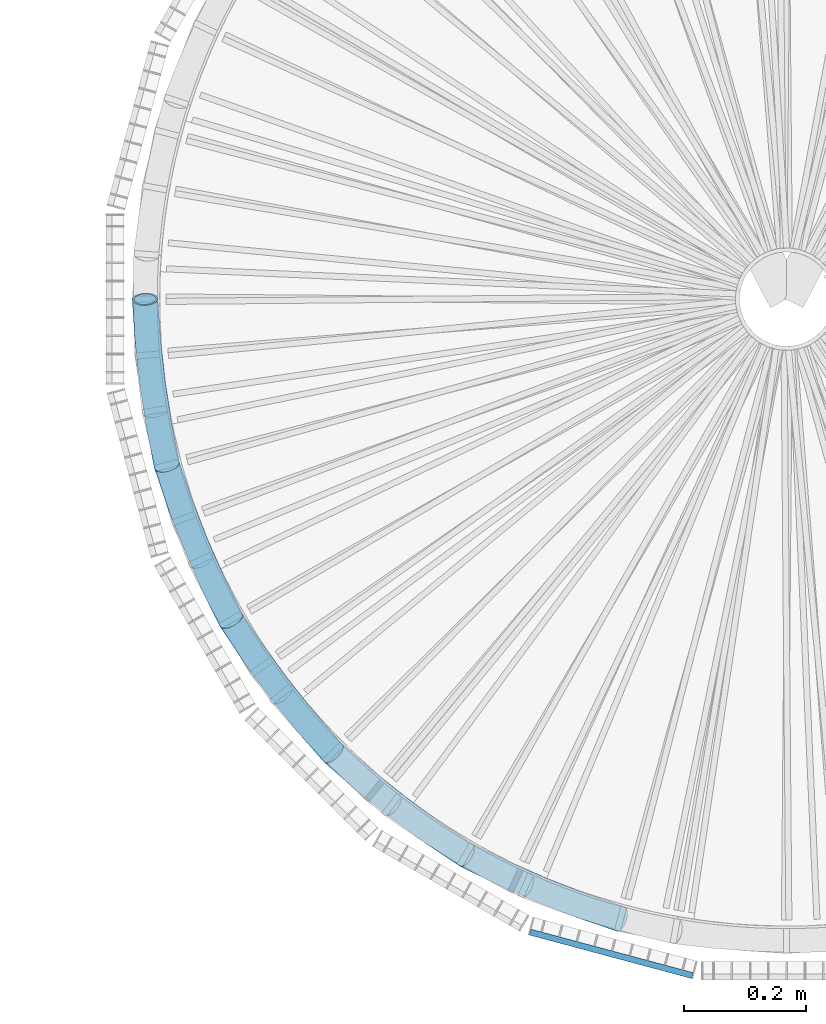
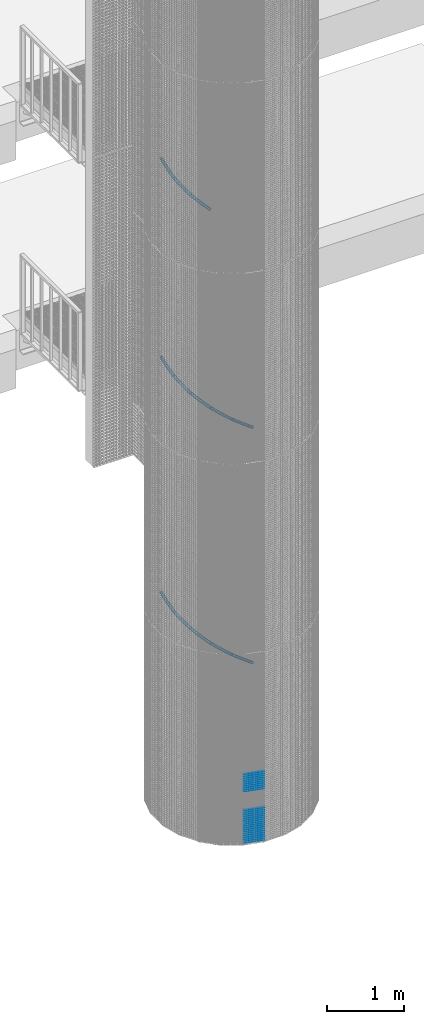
# One storey, part 373 of 1148: 28 beams, 13 members, 14 elements without a shape of their own.
"""IFC2X3 building model written with IfcOpenShell, lengths in millimetres."""

from ifc_helpers import new_model, entity, si_unit, frame, origin_with_axes, origin_2d_with_axis, place, context, subcontext, project, spatial, rectangle, extrude, material, type_object, element, aggregate, save


model = new_model("IFC2X3")

# Units and contexts
model_context = context("Model", 3, precision=1e-05, world=origin_with_axes())
body_context = subcontext(model_context, "Body", "Model", "MODEL_VIEW")
ifc_project = project(units=[si_unit("LENGTHUNIT", "METRE", prefix="MILLI"), si_unit("AREAUNIT", "SQUARE_METRE"), si_unit("VOLUMEUNIT", "CUBIC_METRE"), si_unit("MASSUNIT", "GRAM", prefix="KILO"), si_unit("TIMEUNIT", "SECOND"), si_unit("PLANEANGLEUNIT", "RADIAN"), si_unit("SOLIDANGLEUNIT", "STERADIAN"), si_unit("THERMODYNAMICTEMPERATUREUNIT", "DEGREE_CELSIUS"), si_unit("LUMINOUSINTENSITYUNIT", "LUMEN")], contexts=[model_context])

# Site, building, storey
site_placement = place(None, origin_with_axes())
site = spatial("IfcSite", under=ifc_project, at=site_placement, Name="Undefined", CompositionType="ELEMENT")
building_placement = place(site_placement, origin_with_axes())
building = spatial("IfcBuilding", under=site, at=building_placement, Name="Undefined", CompositionType="ELEMENT")
storey_placement = place(building_placement, origin_with_axes())
storey = spatial("IfcBuildingStorey", under=building, at=storey_placement, Name="Undefined", CompositionType="ELEMENT", Elevation=0.0)

# Assembly, beams
assembly_1_placement = place(storey_placement, origin_with_axes())
assembly_1 = element("IfcElementAssembly", 1, at=assembly_1_placement, inside=storey, Name="BORDURE", AssemblyPlace="NOTDEFINED", PredefinedType="NOTDEFINED")
ifc_material = material(Name="STEEL/S235JR")
beam_type = type_object("IfcBeamType", Name="PL2*10", PredefinedType="NOTDEFINED")
beam_1_placement = place(assembly_1_placement, frame((21445.1040732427, -1111.25508286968, 539.999999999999), z_axis=(-0.258819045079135, -0.965925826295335, 0.0), x_axis=(-0.965925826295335, 0.258819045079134, 0.0)))
beam_1 = element("IfcBeam", 2, at=beam_1_placement, type_object=beam_type, material=ifc_material, Name="ENTRETOISE", context=body_context, shape_type="SweptSolid", body=[
    extrude(rectangle(XDim=2.0, YDim=10.0, at=origin_2d_with_axis()), frame((275.999999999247, 9.09494701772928e-13, 1.53210777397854e-14), z_axis=(-1.0, 0.0, 0.0), x_axis=(0.0, -1.0, 0.0)), (0.0, 0.0, 1.0), 276.0),
])
beam_2_placement = place(assembly_1_placement, frame((21445.1040732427, -1111.25508286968, 839.999999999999), z_axis=(-0.258819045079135, -0.965925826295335, 0.0), x_axis=(-0.965925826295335, 0.258819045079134, 0.0)))
beam_2 = element("IfcBeam", 3, at=beam_2_placement, type_object=beam_type, material=ifc_material, Name="ENTRETOISE", context=body_context, shape_type="SweptSolid", body=[
    extrude(rectangle(XDim=2.0, YDim=10.0, at=origin_2d_with_axis()), frame((275.999999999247, 9.09494701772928e-13, 1.53210777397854e-14), z_axis=(-1.0, 0.0, 0.0), x_axis=(0.0, -1.0, 0.0)), (0.0, 0.0, 1.0), 276.0),
])
beam_3_placement = place(assembly_1_placement, frame((21445.1040732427, -1111.25508286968, 509.999999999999), z_axis=(-0.258819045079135, -0.965925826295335, 0.0), x_axis=(-0.965925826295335, 0.258819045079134, 0.0)))
beam_3 = element("IfcBeam", 4, at=beam_3_placement, type_object=beam_type, material=ifc_material, Name="ENTRETOISE", context=body_context, shape_type="SweptSolid", body=[
    extrude(rectangle(XDim=2.0, YDim=10.0, at=origin_2d_with_axis()), frame((275.999999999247, 9.09494701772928e-13, 1.53210777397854e-14), z_axis=(-1.0, 0.0, 0.0), x_axis=(0.0, -1.0, 0.0)), (0.0, 0.0, 1.0), 276.0),
])
beam_4_placement = place(assembly_1_placement, frame((21445.1040732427, -1111.25508286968, 479.999999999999), z_axis=(-0.258819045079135, -0.965925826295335, 0.0), x_axis=(-0.965925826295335, 0.258819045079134, 0.0)))
beam_4 = element("IfcBeam", 5, at=beam_4_placement, type_object=beam_type, material=ifc_material, Name="ENTRETOISE", context=body_context, shape_type="SweptSolid", body=[
    extrude(rectangle(XDim=2.0, YDim=10.0, at=origin_2d_with_axis()), frame((275.999999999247, 9.09494701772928e-13, 1.53210777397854e-14), z_axis=(-1.0, 0.0, 0.0), x_axis=(0.0, -1.0, 0.0)), (0.0, 0.0, 1.0), 276.0),
])
beam_5_placement = place(assembly_1_placement, frame((21445.1040732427, -1111.25508286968, 869.999999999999), z_axis=(-0.258819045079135, -0.965925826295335, 0.0), x_axis=(-0.965925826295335, 0.258819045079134, 0.0)))
beam_5 = element("IfcBeam", 6, at=beam_5_placement, type_object=beam_type, material=ifc_material, Name="ENTRETOISE", context=body_context, shape_type="SweptSolid", body=[
    extrude(rectangle(XDim=2.0, YDim=10.0, at=origin_2d_with_axis()), frame((275.999999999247, 9.09494701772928e-13, 1.53210777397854e-14), z_axis=(-1.0, 0.0, 0.0), x_axis=(0.0, -1.0, 0.0)), (0.0, 0.0, 1.0), 276.0),
])
beam_6_placement = place(assembly_1_placement, frame((21445.1040732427, -1111.25508286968, 449.999999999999), z_axis=(-0.258819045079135, -0.965925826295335, 0.0), x_axis=(-0.965925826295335, 0.258819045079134, 0.0)))
beam_6 = element("IfcBeam", 7, at=beam_6_placement, type_object=beam_type, material=ifc_material, Name="ENTRETOISE", context=body_context, shape_type="SweptSolid", body=[
    extrude(rectangle(XDim=2.0, YDim=10.0, at=origin_2d_with_axis()), frame((275.999999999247, 9.09494701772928e-13, 1.53210777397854e-14), z_axis=(-1.0, 0.0, 0.0), x_axis=(0.0, -1.0, 0.0)), (0.0, 0.0, 1.0), 276.0),
])
beam_7_placement = place(assembly_1_placement, frame((21445.1040732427, -1111.25508286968, 419.999999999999), z_axis=(-0.258819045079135, -0.965925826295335, 0.0), x_axis=(-0.965925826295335, 0.258819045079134, 0.0)))
beam_7 = element("IfcBeam", 8, at=beam_7_placement, type_object=beam_type, material=ifc_material, Name="ENTRETOISE", context=body_context, shape_type="SweptSolid", body=[
    extrude(rectangle(XDim=2.0, YDim=10.0, at=origin_2d_with_axis()), frame((275.999999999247, 9.09494701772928e-13, 1.53210777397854e-14), z_axis=(-1.0, 0.0, 0.0), x_axis=(0.0, -1.0, 0.0)), (0.0, 0.0, 1.0), 276.0),
])
beam_8_placement = place(assembly_1_placement, frame((21445.1040732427, -1111.25508286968, 899.999999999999), z_axis=(-0.258819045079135, -0.965925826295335, 0.0), x_axis=(-0.965925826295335, 0.258819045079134, 0.0)))
beam_8 = element("IfcBeam", 9, at=beam_8_placement, type_object=beam_type, material=ifc_material, Name="ENTRETOISE", context=body_context, shape_type="SweptSolid", body=[
    extrude(rectangle(XDim=2.0, YDim=10.0, at=origin_2d_with_axis()), frame((275.999999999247, 9.09494701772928e-13, 1.53210777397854e-14), z_axis=(-1.0, 0.0, 0.0), x_axis=(0.0, -1.0, 0.0)), (0.0, 0.0, 1.0), 276.0),
])
beam_9_placement = place(assembly_1_placement, frame((21445.1040732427, -1111.25508286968, 389.999999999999), z_axis=(-0.258819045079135, -0.965925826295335, 0.0), x_axis=(-0.965925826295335, 0.258819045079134, 0.0)))
beam_9 = element("IfcBeam", 10, at=beam_9_placement, type_object=beam_type, material=ifc_material, Name="ENTRETOISE", context=body_context, shape_type="SweptSolid", body=[
    extrude(rectangle(XDim=2.0, YDim=10.0, at=origin_2d_with_axis()), frame((275.999999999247, 9.09494701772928e-13, 1.53210777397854e-14), z_axis=(-1.0, 0.0, 0.0), x_axis=(0.0, -1.0, 0.0)), (0.0, 0.0, 1.0), 276.0),
])
beam_10_placement = place(assembly_1_placement, frame((21445.1040732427, -1111.25508286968, 929.999999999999), z_axis=(-0.258819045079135, -0.965925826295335, 0.0), x_axis=(-0.965925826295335, 0.258819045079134, 0.0)))
beam_10 = element("IfcBeam", 11, at=beam_10_placement, type_object=beam_type, material=ifc_material, Name="ENTRETOISE", context=body_context, shape_type="SweptSolid", body=[
    extrude(rectangle(XDim=2.0, YDim=10.0, at=origin_2d_with_axis()), frame((275.999999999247, 9.09494701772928e-13, 1.53210777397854e-14), z_axis=(-1.0, 0.0, 0.0), x_axis=(0.0, -1.0, 0.0)), (0.0, 0.0, 1.0), 276.0),
])
beam_11_placement = place(assembly_1_placement, frame((21445.1040732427, -1111.25508286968, 359.999999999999), z_axis=(-0.258819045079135, -0.965925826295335, 0.0), x_axis=(-0.965925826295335, 0.258819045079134, 0.0)))
beam_11 = element("IfcBeam", 12, at=beam_11_placement, type_object=beam_type, material=ifc_material, Name="ENTRETOISE", context=body_context, shape_type="SweptSolid", body=[
    extrude(rectangle(XDim=2.0, YDim=10.0, at=origin_2d_with_axis()), frame((275.999999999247, 9.09494701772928e-13, 1.53210777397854e-14), z_axis=(-1.0, 0.0, 0.0), x_axis=(0.0, -1.0, 0.0)), (0.0, 0.0, 1.0), 276.0),
])
beam_12_placement = place(assembly_1_placement, frame((21445.1040732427, -1111.25508286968, 329.999999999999), z_axis=(-0.258819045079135, -0.965925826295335, 0.0), x_axis=(-0.965925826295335, 0.258819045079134, 0.0)))
beam_12 = element("IfcBeam", 13, at=beam_12_placement, type_object=beam_type, material=ifc_material, Name="ENTRETOISE", context=body_context, shape_type="SweptSolid", body=[
    extrude(rectangle(XDim=2.0, YDim=10.0, at=origin_2d_with_axis()), frame((275.999999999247, 9.09494701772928e-13, 1.53210777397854e-14), z_axis=(-1.0, 0.0, 0.0), x_axis=(0.0, -1.0, 0.0)), (0.0, 0.0, 1.0), 276.0),
])
beam_13_placement = place(assembly_1_placement, frame((21445.1040732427, -1111.25508286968, 959.999999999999), z_axis=(-0.258819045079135, -0.965925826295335, 0.0), x_axis=(-0.965925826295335, 0.258819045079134, 0.0)))
beam_13 = element("IfcBeam", 14, at=beam_13_placement, type_object=beam_type, material=ifc_material, Name="ENTRETOISE", context=body_context, shape_type="SweptSolid", body=[
    extrude(rectangle(XDim=2.0, YDim=10.0, at=origin_2d_with_axis()), frame((275.999999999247, 9.09494701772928e-13, 1.53210777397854e-14), z_axis=(-1.0, 0.0, 0.0), x_axis=(0.0, -1.0, 0.0)), (0.0, 0.0, 1.0), 276.0),
])
beam_14_placement = place(assembly_1_placement, frame((21445.1040732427, -1111.25508286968, 299.999999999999), z_axis=(-0.258819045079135, -0.965925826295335, 0.0), x_axis=(-0.965925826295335, 0.258819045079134, 0.0)))
beam_14 = element("IfcBeam", 15, at=beam_14_placement, type_object=beam_type, material=ifc_material, Name="ENTRETOISE", context=body_context, shape_type="SweptSolid", body=[
    extrude(rectangle(XDim=2.0, YDim=10.0, at=origin_2d_with_axis()), frame((275.999999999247, 9.09494701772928e-13, 1.53210777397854e-14), z_axis=(-1.0, 0.0, 0.0), x_axis=(0.0, -1.0, 0.0)), (0.0, 0.0, 1.0), 276.0),
])
beam_15_placement = place(assembly_1_placement, frame((21445.1040732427, -1111.25508286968, 269.999999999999), z_axis=(-0.258819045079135, -0.965925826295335, 0.0), x_axis=(-0.965925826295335, 0.258819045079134, 0.0)))
beam_15 = element("IfcBeam", 16, at=beam_15_placement, type_object=beam_type, material=ifc_material, Name="ENTRETOISE", context=body_context, shape_type="SweptSolid", body=[
    extrude(rectangle(XDim=2.0, YDim=10.0, at=origin_2d_with_axis()), frame((275.999999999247, 9.09494701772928e-13, 1.53210777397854e-14), z_axis=(-1.0, 0.0, 0.0), x_axis=(0.0, -1.0, 0.0)), (0.0, 0.0, 1.0), 276.0),
])
beam_16_placement = place(assembly_1_placement, frame((21445.1040732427, -1111.25508286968, 989.999999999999), z_axis=(-0.258819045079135, -0.965925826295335, 0.0), x_axis=(-0.965925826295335, 0.258819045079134, 0.0)))
beam_16 = element("IfcBeam", 17, at=beam_16_placement, type_object=beam_type, material=ifc_material, Name="ENTRETOISE", context=body_context, shape_type="SweptSolid", body=[
    extrude(rectangle(XDim=2.0, YDim=10.0, at=origin_2d_with_axis()), frame((275.999999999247, 9.09494701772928e-13, 1.53210777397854e-14), z_axis=(-1.0, 0.0, 0.0), x_axis=(0.0, -1.0, 0.0)), (0.0, 0.0, 1.0), 276.0),
])
beam_17_placement = place(assembly_1_placement, frame((21445.1040732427, -1111.25508286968, 239.999999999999), z_axis=(-0.258819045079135, -0.965925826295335, 0.0), x_axis=(-0.965925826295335, 0.258819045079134, 0.0)))
beam_17 = element("IfcBeam", 18, at=beam_17_placement, type_object=beam_type, material=ifc_material, Name="ENTRETOISE", context=body_context, shape_type="SweptSolid", body=[
    extrude(rectangle(XDim=2.0, YDim=10.0, at=origin_2d_with_axis()), frame((275.999999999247, 9.09494701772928e-13, 1.53210777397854e-14), z_axis=(-1.0, 0.0, 0.0), x_axis=(0.0, -1.0, 0.0)), (0.0, 0.0, 1.0), 276.0),
])
beam_18_placement = place(assembly_1_placement, frame((21445.1040732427, -1111.25508286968, 1020.0), z_axis=(-0.258819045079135, -0.965925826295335, 0.0), x_axis=(-0.965925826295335, 0.258819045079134, 0.0)))
beam_18 = element("IfcBeam", 19, at=beam_18_placement, type_object=beam_type, material=ifc_material, Name="ENTRETOISE", context=body_context, shape_type="SweptSolid", body=[
    extrude(rectangle(XDim=2.0, YDim=10.0, at=origin_2d_with_axis()), frame((275.999999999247, 9.09494701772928e-13, 1.53210777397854e-14), z_axis=(-1.0, 0.0, 0.0), x_axis=(0.0, -1.0, 0.0)), (0.0, 0.0, 1.0), 276.0),
])
beam_19_placement = place(assembly_1_placement, frame((21445.1040732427, -1111.25508286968, 209.999999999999), z_axis=(-0.258819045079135, -0.965925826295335, 0.0), x_axis=(-0.965925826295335, 0.258819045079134, 0.0)))
beam_19 = element("IfcBeam", 20, at=beam_19_placement, type_object=beam_type, material=ifc_material, Name="ENTRETOISE", context=body_context, shape_type="SweptSolid", body=[
    extrude(rectangle(XDim=2.0, YDim=10.0, at=origin_2d_with_axis()), frame((275.999999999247, 9.09494701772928e-13, 1.53210777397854e-14), z_axis=(-1.0, 0.0, 0.0), x_axis=(0.0, -1.0, 0.0)), (0.0, 0.0, 1.0), 276.0),
])
beam_20_placement = place(assembly_1_placement, frame((21445.1040732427, -1111.25508286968, 179.999999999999), z_axis=(-0.258819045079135, -0.965925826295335, 0.0), x_axis=(-0.965925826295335, 0.258819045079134, 0.0)))
beam_20 = element("IfcBeam", 21, at=beam_20_placement, type_object=beam_type, material=ifc_material, Name="ENTRETOISE", context=body_context, shape_type="SweptSolid", body=[
    extrude(rectangle(XDim=2.0, YDim=10.0, at=origin_2d_with_axis()), frame((275.999999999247, 9.09494701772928e-13, 1.53210777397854e-14), z_axis=(-1.0, 0.0, 0.0), x_axis=(0.0, -1.0, 0.0)), (0.0, 0.0, 1.0), 276.0),
])
beam_21_placement = place(assembly_1_placement, frame((21445.1040732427, -1111.25508286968, 1050.0), z_axis=(-0.258819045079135, -0.965925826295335, 0.0), x_axis=(-0.965925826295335, 0.258819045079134, 0.0)))
beam_21 = element("IfcBeam", 22, at=beam_21_placement, type_object=beam_type, material=ifc_material, Name="ENTRETOISE", context=body_context, shape_type="SweptSolid", body=[
    extrude(rectangle(XDim=2.0, YDim=10.0, at=origin_2d_with_axis()), frame((275.999999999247, 9.09494701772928e-13, 1.53210777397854e-14), z_axis=(-1.0, 0.0, 0.0), x_axis=(0.0, -1.0, 0.0)), (0.0, 0.0, 1.0), 276.0),
])
beam_22_placement = place(assembly_1_placement, frame((21445.1040732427, -1111.25508286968, 149.999999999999), z_axis=(-0.258819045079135, -0.965925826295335, 0.0), x_axis=(-0.965925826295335, 0.258819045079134, 0.0)))
beam_22 = element("IfcBeam", 23, at=beam_22_placement, type_object=beam_type, material=ifc_material, Name="ENTRETOISE", context=body_context, shape_type="SweptSolid", body=[
    extrude(rectangle(XDim=2.0, YDim=10.0, at=origin_2d_with_axis()), frame((275.999999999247, 9.09494701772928e-13, 1.53210777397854e-14), z_axis=(-1.0, 0.0, 0.0), x_axis=(0.0, -1.0, 0.0)), (0.0, 0.0, 1.0), 276.0),
])
beam_23_placement = place(assembly_1_placement, frame((21445.1040732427, -1111.25508286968, 119.999999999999), z_axis=(-0.258819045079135, -0.965925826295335, 0.0), x_axis=(-0.965925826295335, 0.258819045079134, 0.0)))
beam_23 = element("IfcBeam", 24, at=beam_23_placement, type_object=beam_type, material=ifc_material, Name="ENTRETOISE", context=body_context, shape_type="SweptSolid", body=[
    extrude(rectangle(XDim=2.0, YDim=10.0, at=origin_2d_with_axis()), frame((275.999999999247, 9.09494701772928e-13, 1.53210777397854e-14), z_axis=(-1.0, 0.0, 0.0), x_axis=(0.0, -1.0, 0.0)), (0.0, 0.0, 1.0), 276.0),
])
beam_24_placement = place(assembly_1_placement, frame((21445.1040732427, -1111.25508286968, 1080.0), z_axis=(-0.258819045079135, -0.965925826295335, 0.0), x_axis=(-0.965925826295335, 0.258819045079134, 0.0)))
beam_24 = element("IfcBeam", 25, at=beam_24_placement, type_object=beam_type, material=ifc_material, Name="ENTRETOISE", context=body_context, shape_type="SweptSolid", body=[
    extrude(rectangle(XDim=2.0, YDim=10.0, at=origin_2d_with_axis()), frame((275.999999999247, 9.09494701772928e-13, 1.53210777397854e-14), z_axis=(-1.0, 0.0, 0.0), x_axis=(0.0, -1.0, 0.0)), (0.0, 0.0, 1.0), 276.0),
])
beam_25_placement = place(assembly_1_placement, frame((21445.1040732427, -1111.25508286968, 89.9999999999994), z_axis=(-0.258819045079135, -0.965925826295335, 0.0), x_axis=(-0.965925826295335, 0.258819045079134, 0.0)))
beam_25 = element("IfcBeam", 26, at=beam_25_placement, type_object=beam_type, material=ifc_material, Name="ENTRETOISE", context=body_context, shape_type="SweptSolid", body=[
    extrude(rectangle(XDim=2.0, YDim=10.0, at=origin_2d_with_axis()), frame((275.999999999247, 9.09494701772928e-13, 1.53210777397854e-14), z_axis=(-1.0, 0.0, 0.0), x_axis=(0.0, -1.0, 0.0)), (0.0, 0.0, 1.0), 276.0),
])
beam_26_placement = place(assembly_1_placement, frame((21445.1040732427, -1111.25508286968, 59.9999999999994), z_axis=(-0.258819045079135, -0.965925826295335, 0.0), x_axis=(-0.965925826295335, 0.258819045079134, 0.0)))
beam_26 = element("IfcBeam", 27, at=beam_26_placement, type_object=beam_type, material=ifc_material, Name="ENTRETOISE", context=body_context, shape_type="SweptSolid", body=[
    extrude(rectangle(XDim=2.0, YDim=10.0, at=origin_2d_with_axis()), frame((275.999999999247, 9.09494701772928e-13, 1.53210777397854e-14), z_axis=(-1.0, 0.0, 0.0), x_axis=(0.0, -1.0, 0.0)), (0.0, 0.0, 1.0), 276.0),
])
beam_27_placement = place(assembly_1_placement, frame((21445.1040732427, -1111.25508286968, 1110.0), z_axis=(-0.258819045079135, -0.965925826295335, 0.0), x_axis=(-0.965925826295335, 0.258819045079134, 0.0)))
beam_27 = element("IfcBeam", 28, at=beam_27_placement, type_object=beam_type, material=ifc_material, Name="ENTRETOISE", context=body_context, shape_type="SweptSolid", body=[
    extrude(rectangle(XDim=2.0, YDim=10.0, at=origin_2d_with_axis()), frame((275.999999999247, 9.09494701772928e-13, 1.53210777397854e-14), z_axis=(-1.0, 0.0, 0.0), x_axis=(0.0, -1.0, 0.0)), (0.0, 0.0, 1.0), 276.0),
])
beam_28_placement = place(assembly_1_placement, frame((21445.1040732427, -1111.25508286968, 29.9999999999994), z_axis=(-0.258819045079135, -0.965925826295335, 0.0), x_axis=(-0.965925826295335, 0.258819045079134, 0.0)))
beam_28 = element("IfcBeam", 29, at=beam_28_placement, type_object=beam_type, material=ifc_material, Name="ENTRETOISE", context=body_context, shape_type="SweptSolid", body=[
    extrude(rectangle(XDim=2.0, YDim=10.0, at=origin_2d_with_axis()), frame((275.999999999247, 9.09494701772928e-13, 1.53210777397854e-14), z_axis=(-1.0, 0.0, 0.0), x_axis=(0.0, -1.0, 0.0)), (0.0, 0.0, 1.0), 276.0),
])
aggregate(assembly_1, [beam_1, beam_2, beam_3, beam_4, beam_5, beam_6, beam_7, beam_8, beam_9, beam_10, beam_11, beam_12, beam_13, beam_14, beam_15, beam_16, beam_17, beam_18, beam_19, beam_20, beam_21, beam_22, beam_23, beam_24, beam_25, beam_26, beam_27, beam_28])

# Assembly, member
assembly_2_placement = place(storey_placement, origin_with_axes())
assembly_2 = element("IfcElementAssembly", 30, at=assembly_2_placement, inside=storey, Name="MONTANT", AssemblyPlace="NOTDEFINED", PredefinedType="NOTDEFINED")
member_type = type_object("IfcMemberType", Name="TUBE-42.4*3.2", PredefinedType="NOTDEFINED")
member_1_placement = place(assembly_2_placement, frame((20581.9141790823, -272.795273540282, 7126.27999999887), z_axis=(-0.991444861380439, -0.130526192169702, -6.66004780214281e-11), x_axis=(-0.113807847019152, 0.864456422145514, 0.489655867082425)))
member_1 = element("IfcMember", 31, at=member_1_placement, type_object=member_type, material=ifc_material, Name="MAIN_COURANTE", context=body_context, shape_type="SweptSolid", body=[
    entity("IfcRevolvedAreaSolid", entity("IfcCircleHollowProfileDef", "AREA", None, entity("IfcAxis2Placement2D", entity("IfcCartesianPoint", [0.0, 0.0]), entity("IfcDirection", [1.0, 0.0])), 21.200000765, 3.200000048), entity("IfcAxis2Placement3D", entity("IfcCartesianPoint", [315.568566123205, -9.09494701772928e-13, -1.31255851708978e-15]), entity("IfcDirection", [-0.997194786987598, -4.44488503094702e-18, 0.0748502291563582]), entity("IfcDirection", [0.0, -1.0, 0.0])), entity("IfcAxis1Placement", entity("IfcCartesianPoint", [0.0, -2108.0, 0.0]), entity("IfcDirection", [1.0, 0.0, 0.0])), 0.149840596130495),
])
aggregate(assembly_2, [member_1])

assembly_3_placement = place(storey_placement, origin_with_axes())
assembly_3 = element("IfcElementAssembly", 32, at=assembly_3_placement, inside=storey, Name="MONTANT", AssemblyPlace="NOTDEFINED", PredefinedType="NOTDEFINED")
member_2_placement = place(assembly_3_placement, frame((20687.2092244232, -526.999999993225, 6971.75999999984), z_axis=(-0.923879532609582, -0.382683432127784, -1.50203959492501e-10), x_axis=(-0.333667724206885, 0.805545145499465, 0.489655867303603)))
member_2 = element("IfcMember", 33, at=member_2_placement, type_object=member_type, material=ifc_material, Name="MAIN_COURANTE", context=body_context, shape_type="SweptSolid", body=[
    entity("IfcRevolvedAreaSolid", entity("IfcCircleHollowProfileDef", "AREA", None, entity("IfcAxis2Placement2D", entity("IfcCartesianPoint", [0.0, 0.0]), entity("IfcDirection", [1.0, 0.0])), 21.200000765, 3.200000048), entity("IfcAxis2Placement3D", entity("IfcCartesianPoint", [315.568566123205, -9.09494701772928e-13, -1.31255851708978e-15]), entity("IfcDirection", [-0.997194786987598, -4.44488503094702e-18, 0.0748502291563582]), entity("IfcDirection", [0.0, -1.0, 0.0])), entity("IfcAxis1Placement", entity("IfcCartesianPoint", [0.0, -2108.0, 0.0]), entity("IfcDirection", [1.0, 0.0, 0.0])), 0.1498405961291),
])
aggregate(assembly_3, [member_2])

assembly_4_placement = place(storey_placement, origin_with_axes())
assembly_4 = element("IfcElementAssembly", 34, at=assembly_4_placement, inside=storey, Name="MONTANT", AssemblyPlace="NOTDEFINED", PredefinedType="NOTDEFINED")
member_3_placement = place(assembly_4_placement, frame((20854.7094526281, -745.290547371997, 6817.2400000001), z_axis=(-0.793353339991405, -0.608761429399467, -1.80915776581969e-10), x_axis=(-0.530788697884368, 0.691737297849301, 0.489655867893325)))
member_3 = element("IfcMember", 35, at=member_3_placement, type_object=member_type, material=ifc_material, Name="MAIN_COURANTE", context=body_context, shape_type="SweptSolid", body=[
    entity("IfcRevolvedAreaSolid", entity("IfcCircleHollowProfileDef", "AREA", None, entity("IfcAxis2Placement2D", entity("IfcCartesianPoint", [0.0, 0.0]), entity("IfcDirection", [1.0, 0.0])), 21.200000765, 3.200000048), entity("IfcAxis2Placement3D", entity("IfcCartesianPoint", [315.568566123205, -9.09494701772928e-13, -1.31255851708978e-15]), entity("IfcDirection", [-0.997194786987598, -4.44488503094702e-18, 0.0748502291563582]), entity("IfcDirection", [0.0, -1.0, 0.0])), entity("IfcAxis1Placement", entity("IfcCartesianPoint", [0.0, -2108.0, 0.0]), entity("IfcDirection", [1.0, 0.0, 0.0])), 0.149840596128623),
])
aggregate(assembly_4, [member_3])

assembly_5_placement = place(storey_placement, origin_with_axes())
assembly_5 = element("IfcElementAssembly", 36, at=assembly_5_placement, inside=storey, Name="MONTANT", AssemblyPlace="NOTDEFINED", PredefinedType="NOTDEFINED")
member_4_placement = place(assembly_5_placement, frame((21072.9999999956, -912.790775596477, 6662.71999999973), z_axis=(-0.608761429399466, -0.793353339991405, 1.80915776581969e-10), x_axis=(-0.691737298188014, 0.53078869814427, 0.48965586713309)))
member_4 = element("IfcMember", 37, at=member_4_placement, type_object=member_type, material=ifc_material, Name="MAIN_COURANTE", context=body_context, shape_type="SweptSolid", body=[
    entity("IfcRevolvedAreaSolid", entity("IfcCircleHollowProfileDef", "AREA", None, entity("IfcAxis2Placement2D", entity("IfcCartesianPoint", [0.0, 0.0]), entity("IfcDirection", [1.0, 0.0])), 21.200000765, 3.200000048), entity("IfcAxis2Placement3D", entity("IfcCartesianPoint", [315.568566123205, -9.09494701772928e-13, -1.31255851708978e-15]), entity("IfcDirection", [-0.997194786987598, -4.44488503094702e-18, 0.0748502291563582]), entity("IfcDirection", [0.0, -1.0, 0.0])), entity("IfcAxis1Placement", entity("IfcCartesianPoint", [0.0, -2108.0, 0.0]), entity("IfcDirection", [1.0, 0.0, 0.0])), 0.149840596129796),
])
aggregate(assembly_5, [member_4])

assembly_6_placement = place(storey_placement, origin_with_axes())
assembly_6 = element("IfcElementAssembly", 38, at=assembly_6_placement, inside=storey, Name="MONTANT", AssemblyPlace="NOTDEFINED", PredefinedType="NOTDEFINED")
member_5_placement = place(assembly_6_placement, frame((21327.2047264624, -1018.08582090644, 6508.20000000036), z_axis=(-0.382683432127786, -0.923879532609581, 1.50204868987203e-10), x_axis=(-0.805545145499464, 0.333667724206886, 0.489655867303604)))
member_5 = element("IfcMember", 39, at=member_5_placement, type_object=member_type, material=ifc_material, Name="MAIN_COURANTE", context=body_context, shape_type="SweptSolid", body=[
    entity("IfcRevolvedAreaSolid", entity("IfcCircleHollowProfileDef", "AREA", None, entity("IfcAxis2Placement2D", entity("IfcCartesianPoint", [0.0, 0.0]), entity("IfcDirection", [1.0, 0.0])), 21.200000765, 3.200000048), entity("IfcAxis2Placement3D", entity("IfcCartesianPoint", [315.568566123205, -9.09494701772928e-13, -1.31255851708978e-15]), entity("IfcDirection", [-0.997194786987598, -4.44488503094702e-18, 0.0748502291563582]), entity("IfcDirection", [0.0, -1.0, 0.0])), entity("IfcAxis1Placement", entity("IfcCartesianPoint", [0.0, -2108.0, 0.0]), entity("IfcDirection", [1.0, 0.0, 0.0])), 0.14984059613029),
])
aggregate(assembly_6, [member_5])

assembly_7_placement = place(storey_placement, origin_with_axes())
assembly_7 = element("IfcElementAssembly", 40, at=assembly_7_placement, inside=storey, Name="MONTANT", AssemblyPlace="NOTDEFINED", PredefinedType="NOTDEFINED")
member_6_placement = place(assembly_7_placement, frame((20581.9141790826, -272.795273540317, 3417.79999999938), z_axis=(-0.991444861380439, -0.130526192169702, -6.66004780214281e-11), x_axis=(-0.113807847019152, 0.864456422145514, 0.489655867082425)))
member_6 = element("IfcMember", 41, at=member_6_placement, type_object=member_type, material=ifc_material, Name="MAIN_COURANTE", context=body_context, shape_type="SweptSolid", body=[
    entity("IfcRevolvedAreaSolid", entity("IfcCircleHollowProfileDef", "AREA", None, entity("IfcAxis2Placement2D", entity("IfcCartesianPoint", [0.0, 0.0]), entity("IfcDirection", [1.0, 0.0])), 21.200000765, 3.200000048), entity("IfcAxis2Placement3D", entity("IfcCartesianPoint", [315.568566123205, -9.09494701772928e-13, -1.31255851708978e-15]), entity("IfcDirection", [-0.997194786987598, -4.44488503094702e-18, 0.0748502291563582]), entity("IfcDirection", [0.0, -1.0, 0.0])), entity("IfcAxis1Placement", entity("IfcCartesianPoint", [0.0, -2108.0, 0.0]), entity("IfcDirection", [1.0, 0.0, 0.0])), 0.149840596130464),
])
aggregate(assembly_7, [member_6])

assembly_8_placement = place(storey_placement, origin_with_axes())
assembly_8 = element("IfcElementAssembly", 42, at=assembly_8_placement, inside=storey, Name="MONTANT", AssemblyPlace="NOTDEFINED", PredefinedType="NOTDEFINED")
member_7_placement = place(assembly_8_placement, frame((20687.2092244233, -526.999999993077, 3263.27999999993), z_axis=(-0.923879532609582, -0.382683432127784, -1.50203959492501e-10), x_axis=(-0.333667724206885, 0.805545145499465, 0.489655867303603)))
member_7 = element("IfcMember", 43, at=member_7_placement, type_object=member_type, material=ifc_material, Name="MAIN_COURANTE", context=body_context, shape_type="SweptSolid", body=[
    entity("IfcRevolvedAreaSolid", entity("IfcCircleHollowProfileDef", "AREA", None, entity("IfcAxis2Placement2D", entity("IfcCartesianPoint", [0.0, 0.0]), entity("IfcDirection", [1.0, 0.0])), 21.200000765, 3.200000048), entity("IfcAxis2Placement3D", entity("IfcCartesianPoint", [315.568566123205, -9.09494701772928e-13, -1.31255851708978e-15]), entity("IfcDirection", [-0.997194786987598, -4.44488503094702e-18, 0.0748502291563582]), entity("IfcDirection", [0.0, -1.0, 0.0])), entity("IfcAxis1Placement", entity("IfcCartesianPoint", [0.0, -2108.0, 0.0]), entity("IfcDirection", [1.0, 0.0, 0.0])), 0.149840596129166),
])
aggregate(assembly_8, [member_7])

assembly_9_placement = place(storey_placement, origin_with_axes())
assembly_9 = element("IfcElementAssembly", 44, at=assembly_9_placement, inside=storey, Name="MONTANT", AssemblyPlace="NOTDEFINED", PredefinedType="NOTDEFINED")
member_8_placement = place(assembly_9_placement, frame((20854.7094526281, -745.290547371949, 3108.76000000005), z_axis=(-0.793353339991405, -0.608761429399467, -1.80915776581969e-10), x_axis=(-0.530788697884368, 0.691737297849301, 0.489655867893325)))
member_8 = element("IfcMember", 45, at=member_8_placement, type_object=member_type, material=ifc_material, Name="MAIN_COURANTE", context=body_context, shape_type="SweptSolid", body=[
    entity("IfcRevolvedAreaSolid", entity("IfcCircleHollowProfileDef", "AREA", None, entity("IfcAxis2Placement2D", entity("IfcCartesianPoint", [0.0, 0.0]), entity("IfcDirection", [1.0, 0.0])), 21.200000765, 3.200000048), entity("IfcAxis2Placement3D", entity("IfcCartesianPoint", [315.568566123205, -9.09494701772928e-13, -1.31255851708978e-15]), entity("IfcDirection", [-0.997194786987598, -4.44488503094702e-18, 0.0748502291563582]), entity("IfcDirection", [0.0, -1.0, 0.0])), entity("IfcAxis1Placement", entity("IfcCartesianPoint", [0.0, -2108.0, 0.0]), entity("IfcDirection", [1.0, 0.0, 0.0])), 0.149840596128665),
])
aggregate(assembly_9, [member_8])

assembly_10_placement = place(storey_placement, origin_with_axes())
assembly_10 = element("IfcElementAssembly", 46, at=assembly_10_placement, inside=storey, Name="MONTANT", AssemblyPlace="NOTDEFINED", PredefinedType="NOTDEFINED")
member_9_placement = place(assembly_10_placement, frame((21072.9999999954, -912.790775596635, 2954.23999999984), z_axis=(-0.608761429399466, -0.793353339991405, 1.80915776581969e-10), x_axis=(-0.691737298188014, 0.53078869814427, 0.48965586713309)))
member_9 = element("IfcMember", 47, at=member_9_placement, type_object=member_type, material=ifc_material, Name="MAIN_COURANTE", context=body_context, shape_type="SweptSolid", body=[
    entity("IfcRevolvedAreaSolid", entity("IfcCircleHollowProfileDef", "AREA", None, entity("IfcAxis2Placement2D", entity("IfcCartesianPoint", [0.0, 0.0]), entity("IfcDirection", [1.0, 0.0])), 21.200000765, 3.200000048), entity("IfcAxis2Placement3D", entity("IfcCartesianPoint", [315.568566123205, -9.09494701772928e-13, -1.31255851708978e-15]), entity("IfcDirection", [-0.997194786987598, -4.44488503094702e-18, 0.0748502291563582]), entity("IfcDirection", [0.0, -1.0, 0.0])), entity("IfcAxis1Placement", entity("IfcCartesianPoint", [0.0, -2108.0, 0.0]), entity("IfcDirection", [1.0, 0.0, 0.0])), 0.149840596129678),
])
aggregate(assembly_10, [member_9])

assembly_11_placement = place(storey_placement, origin_with_axes())
assembly_11 = element("IfcElementAssembly", 48, at=assembly_11_placement, inside=storey, Name="MONTANT", AssemblyPlace="NOTDEFINED", PredefinedType="NOTDEFINED")
member_10_placement = place(assembly_11_placement, frame((21327.2047264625, -1018.08582090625, 2799.7200000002), z_axis=(-0.382683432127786, -0.923879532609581, 1.50204868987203e-10), x_axis=(-0.805545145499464, 0.333667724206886, 0.489655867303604)))
member_10 = element("IfcMember", 49, at=member_10_placement, type_object=member_type, material=ifc_material, Name="MAIN_COURANTE", context=body_context, shape_type="SweptSolid", body=[
    entity("IfcRevolvedAreaSolid", entity("IfcCircleHollowProfileDef", "AREA", None, entity("IfcAxis2Placement2D", entity("IfcCartesianPoint", [0.0, 0.0]), entity("IfcDirection", [1.0, 0.0])), 21.200000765, 3.200000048), entity("IfcAxis2Placement3D", entity("IfcCartesianPoint", [315.568566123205, -9.09494701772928e-13, -1.31255851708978e-15]), entity("IfcDirection", [-0.997194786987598, -4.44488503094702e-18, 0.0748502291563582]), entity("IfcDirection", [0.0, -1.0, 0.0])), entity("IfcAxis1Placement", entity("IfcCartesianPoint", [0.0, -2108.0, 0.0]), entity("IfcDirection", [1.0, 0.0, 0.0])), 0.149840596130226),
])
aggregate(assembly_11, [member_10])

assembly_12_placement = place(storey_placement, origin_with_axes())
assembly_12 = element("IfcElementAssembly", 50, at=assembly_12_placement, inside=storey, Name="MONTANT", AssemblyPlace="NOTDEFINED", PredefinedType="NOTDEFINED")
member_11_placement = place(assembly_12_placement, frame((20581.9141790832, -272.795273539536, 10250.8400000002), z_axis=(-0.991444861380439, -0.130526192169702, -6.66004780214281e-11), x_axis=(-0.113454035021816, 0.861768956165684, 0.494451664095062)))
member_11 = element("IfcMember", 51, at=member_11_placement, type_object=member_type, material=ifc_material, Name="MAIN_COURANTE", context=body_context, shape_type="SweptSolid", body=[
    entity("IfcRevolvedAreaSolid", entity("IfcCircleHollowProfileDef", "AREA", None, entity("IfcAxis2Placement2D", entity("IfcCartesianPoint", [0.0, 0.0]), entity("IfcDirection", [1.0, 0.0])), 21.200000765, 3.200000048), entity("IfcAxis2Placement3D", entity("IfcCartesianPoint", [316.552681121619, 9.09494701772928e-13, -1.82569453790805e-12]), entity("IfcDirection", [-0.997177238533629, 2.1263748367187e-18, 0.0750836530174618]), entity("IfcDirection", [0.0, -1.0, 0.0])), entity("IfcAxis1Placement", entity("IfcCartesianPoint", [0.0, -2108.0, 0.0]), entity("IfcDirection", [1.0, 0.0, 0.0])), 0.150308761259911),
])
aggregate(assembly_12, [member_11])

assembly_13_placement = place(storey_placement, origin_with_axes())
assembly_13 = element("IfcElementAssembly", 52, at=assembly_13_placement, inside=storey, Name="MONTANT", AssemblyPlace="NOTDEFINED", PredefinedType="NOTDEFINED")
member_12_placement = place(assembly_13_placement, frame((20687.2092244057, -527.000000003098, 10094.3199999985), z_axis=(-0.923879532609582, -0.382683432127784, -1.50203959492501e-10), x_axis=(-0.332630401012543, 0.803040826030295, 0.494451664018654)))
member_12 = element("IfcMember", 53, at=member_12_placement, type_object=member_type, material=ifc_material, Name="MAIN_COURANTE", context=body_context, shape_type="SweptSolid", body=[
    entity("IfcRevolvedAreaSolid", entity("IfcCircleHollowProfileDef", "AREA", None, entity("IfcAxis2Placement2D", entity("IfcCartesianPoint", [0.0, 0.0]), entity("IfcDirection", [1.0, 0.0])), 21.200000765, 3.200000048), entity("IfcAxis2Placement3D", entity("IfcCartesianPoint", [316.552681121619, 9.09494701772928e-13, -1.82569453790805e-12]), entity("IfcDirection", [-0.997177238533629, 2.1263748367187e-18, 0.0750836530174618]), entity("IfcDirection", [0.0, -1.0, 0.0])), entity("IfcAxis1Placement", entity("IfcCartesianPoint", [0.0, -2108.0, 0.0]), entity("IfcDirection", [1.0, 0.0, 0.0])), 0.150308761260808),
])
aggregate(assembly_13, [member_12])

assembly_14_placement = place(storey_placement, origin_with_axes())
assembly_14 = element("IfcElementAssembly", 54, at=assembly_14_placement, inside=storey, Name="MONTANT", AssemblyPlace="NOTDEFINED", PredefinedType="NOTDEFINED")
member_13_placement = place(assembly_14_placement, frame((20854.7094526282, -745.290547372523, 9937.79999999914), z_axis=(-0.793353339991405, -0.608761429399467, -1.80915776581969e-10), x_axis=(-0.529138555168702, 0.689586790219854, 0.494451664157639)))
member_13 = element("IfcMember", 55, at=member_13_placement, type_object=member_type, material=ifc_material, Name="MAIN_COURANTE", context=body_context, shape_type="SweptSolid", body=[
    entity("IfcRevolvedAreaSolid", entity("IfcCircleHollowProfileDef", "AREA", None, entity("IfcAxis2Placement2D", entity("IfcCartesianPoint", [0.0, 0.0]), entity("IfcDirection", [1.0, 0.0])), 21.200000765, 3.200000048), entity("IfcAxis2Placement3D", entity("IfcCartesianPoint", [316.552681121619, 9.09494701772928e-13, -1.82569453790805e-12]), entity("IfcDirection", [-0.997177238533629, 2.1263748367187e-18, 0.0750836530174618]), entity("IfcDirection", [0.0, -1.0, 0.0])), entity("IfcAxis1Placement", entity("IfcCartesianPoint", [0.0, -2108.0, 0.0]), entity("IfcDirection", [1.0, 0.0, 0.0])), 0.150308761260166),
])
aggregate(assembly_14, [member_13])

save(model, "model.ifc")
